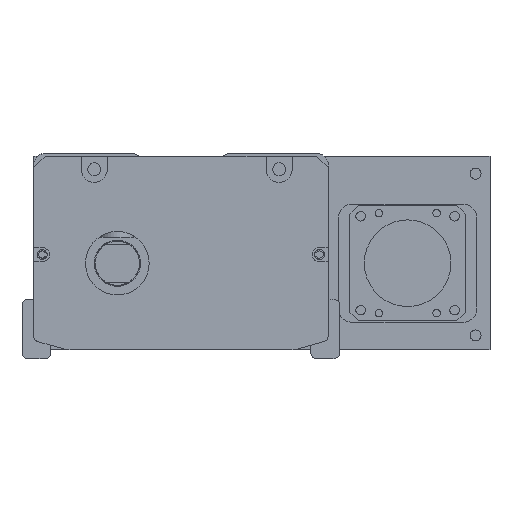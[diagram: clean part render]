
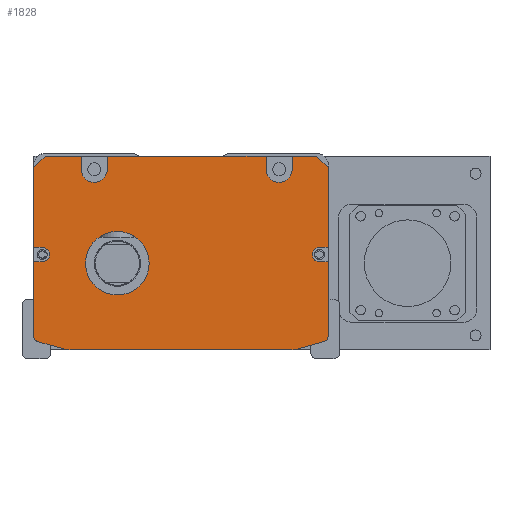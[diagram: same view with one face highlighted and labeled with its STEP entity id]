
A CAD part, front view. The second image highlights one B-rep face of the part: STEP entity #1828.
In plain terms, the highlighted planar face has unit normal (0, -1, 0).
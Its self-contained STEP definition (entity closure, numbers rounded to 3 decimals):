
#1828=ADVANCED_FACE('',(#4376,#4377),#2367,.F.);
#2367=PLANE('',#13833);
#2900=LINE('',#26666,#3695);
#2904=LINE('',#26675,#3699);
#2912=LINE('',#26702,#3707);
#2916=LINE('',#26711,#3711);
#2923=LINE('',#26727,#3718);
#2925=LINE('',#26732,#3720);
#2940=LINE('',#26775,#3735);
#2942=LINE('',#26783,#3737);
#2945=LINE('',#26787,#3740);
#2966=LINE('',#26855,#3761);
#2970=LINE('',#26864,#3765);
#2974=LINE('',#26873,#3769);
#2978=LINE('',#26882,#3773);
#2982=LINE('',#26898,#3777);
#2986=LINE('',#26904,#3781);
#2987=LINE('',#26905,#3782);
#2989=LINE('',#26921,#3784);
#2990=LINE('',#26922,#3785);
#2991=LINE('',#26923,#3786);
#2992=LINE('',#26924,#3787);
#3695=VECTOR('',#16325,1.);
#3699=VECTOR('',#16331,1.);
#3707=VECTOR('',#16353,1.);
#3711=VECTOR('',#16359,1.);
#3718=VECTOR('',#16368,1.);
#3720=VECTOR('',#16372,1.);
#3735=VECTOR('',#16411,1.);
#3737=VECTOR('',#16421,1.);
#3740=VECTOR('',#16426,1.);
#3761=VECTOR('',#16501,1.);
#3765=VECTOR('',#16507,1.);
#3769=VECTOR('',#16513,1.);
#3773=VECTOR('',#16519,1.);
#3777=VECTOR('',#16537,1.);
#3781=VECTOR('',#16541,1.);
#3782=VECTOR('',#16542,1.);
#3784=VECTOR('',#16566,1.);
#3785=VECTOR('',#16567,1.);
#3786=VECTOR('',#16568,1.);
#3787=VECTOR('',#16569,1.);
#4376=FACE_BOUND('',#5246,.T.);
#4377=FACE_BOUND('',#5247,.T.);
#5246=EDGE_LOOP('',(#7701,#7702,#7703,#7704,#7705,#7706,#7707,#7708,#7709,
#7710,#7711,#7712,#7713,#7714,#7715,#7716,#7717,#7718,#7719,#7720,#7721,
#7722,#7723,#7724,#7725,#7726,#7727,#7728));
#5247=EDGE_LOOP('',(#7729));
#7701=ORIENTED_EDGE('',*,*,#11662,.T.);
#7702=ORIENTED_EDGE('',*,*,#11539,.T.);
#7703=ORIENTED_EDGE('',*,*,#11649,.T.);
#7704=ORIENTED_EDGE('',*,*,#11566,.F.);
#7705=ORIENTED_EDGE('',*,*,#11603,.T.);
#7706=ORIENTED_EDGE('',*,*,#11568,.F.);
#7707=ORIENTED_EDGE('',*,*,#11654,.T.);
#7708=ORIENTED_EDGE('',*,*,#11555,.F.);
#7709=ORIENTED_EDGE('',*,*,#11600,.T.);
#7710=ORIENTED_EDGE('',*,*,#11559,.F.);
#7711=ORIENTED_EDGE('',*,*,#11653,.T.);
#7712=ORIENTED_EDGE('',*,*,#11543,.T.);
#7713=ORIENTED_EDGE('',*,*,#11663,.T.);
#7714=ORIENTED_EDGE('',*,*,#11633,.T.);
#7715=ORIENTED_EDGE('',*,*,#11661,.T.);
#7716=ORIENTED_EDGE('',*,*,#11629,.T.);
#7717=ORIENTED_EDGE('',*,*,#11664,.T.);
#7718=ORIENTED_EDGE('',*,*,#11586,.T.);
#7719=ORIENTED_EDGE('',*,*,#11589,.T.);
#7720=ORIENTED_EDGE('',*,*,#11592,.T.);
#7721=ORIENTED_EDGE('',*,*,#11593,.T.);
#7722=ORIENTED_EDGE('',*,*,#11549,.T.);
#7723=ORIENTED_EDGE('',*,*,#11596,.T.);
#7724=ORIENTED_EDGE('',*,*,#11551,.T.);
#7725=ORIENTED_EDGE('',*,*,#11665,.T.);
#7726=ORIENTED_EDGE('',*,*,#11641,.T.);
#7727=ORIENTED_EDGE('',*,*,#11660,.T.);
#7728=ORIENTED_EDGE('',*,*,#11637,.T.);
#7729=ORIENTED_EDGE('',*,*,#11605,.T.);
#10007=VERTEX_POINT('',#26667);
#10008=VERTEX_POINT('',#26668);
#10011=VERTEX_POINT('',#26676);
#10012=VERTEX_POINT('',#26677);
#10017=VERTEX_POINT('',#26688);
#10018=VERTEX_POINT('',#26690);
#10019=VERTEX_POINT('',#26694);
#10020=VERTEX_POINT('',#26695);
#10023=VERTEX_POINT('',#26703);
#10024=VERTEX_POINT('',#26704);
#10027=VERTEX_POINT('',#26712);
#10028=VERTEX_POINT('',#26713);
#10032=VERTEX_POINT('',#26722);
#10034=VERTEX_POINT('',#26726);
#10035=VERTEX_POINT('',#26730);
#10037=VERTEX_POINT('',#26733);
#10047=VERTEX_POINT('',#26763);
#10050=VERTEX_POINT('',#26768);
#10052=VERTEX_POINT('',#26774);
#10054=VERTEX_POINT('',#26780);
#10057=VERTEX_POINT('',#26806);
#10073=VERTEX_POINT('',#26853);
#10075=VERTEX_POINT('',#26856);
#10078=VERTEX_POINT('',#26863);
#10079=VERTEX_POINT('',#26865);
#10081=VERTEX_POINT('',#26871);
#10083=VERTEX_POINT('',#26874);
#10086=VERTEX_POINT('',#26881);
#10087=VERTEX_POINT('',#26883);
#11539=EDGE_CURVE('',#10007,#10008,#2900,.T.);
#11543=EDGE_CURVE('',#10011,#10012,#2904,.T.);
#11549=EDGE_CURVE('',#10018,#10017,#12708,.T.);
#11551=EDGE_CURVE('',#10019,#10020,#12709,.T.);
#11555=EDGE_CURVE('',#10023,#10024,#2912,.T.);
#11559=EDGE_CURVE('',#10027,#10028,#2916,.T.);
#11566=EDGE_CURVE('',#10034,#10032,#2923,.T.);
#11568=EDGE_CURVE('',#10035,#10037,#2925,.T.);
#11586=EDGE_CURVE('',#10047,#10050,#12716,.T.);
#11589=EDGE_CURVE('',#10050,#10052,#2940,.T.);
#11592=EDGE_CURVE('',#10052,#10054,#12718,.T.);
#11593=EDGE_CURVE('',#10054,#10018,#2942,.T.);
#11596=EDGE_CURVE('',#10017,#10019,#2945,.T.);
#11600=EDGE_CURVE('',#10023,#10028,#12721,.T.);
#11603=EDGE_CURVE('',#10034,#10037,#12724,.T.);
#11605=EDGE_CURVE('',#10057,#10057,#12725,.T.);
#11629=EDGE_CURVE('',#10075,#10073,#2966,.T.);
#11633=EDGE_CURVE('',#10079,#10078,#2970,.T.);
#11637=EDGE_CURVE('',#10083,#10081,#2974,.T.);
#11641=EDGE_CURVE('',#10087,#10086,#2978,.T.);
#11649=EDGE_CURVE('',#10008,#10032,#2982,.T.);
#11653=EDGE_CURVE('',#10027,#10011,#2986,.T.);
#11654=EDGE_CURVE('',#10035,#10024,#2987,.T.);
#11660=EDGE_CURVE('',#10086,#10083,#12739,.T.);
#11661=EDGE_CURVE('',#10078,#10075,#12740,.T.);
#11662=EDGE_CURVE('',#10081,#10007,#2989,.T.);
#11663=EDGE_CURVE('',#10012,#10079,#2990,.T.);
#11664=EDGE_CURVE('',#10073,#10047,#2991,.T.);
#11665=EDGE_CURVE('',#10020,#10087,#2992,.T.);
#12708=CIRCLE('',#13760,10.);
#12709=CIRCLE('',#13762,2.);
#12716=CIRCLE('',#13778,2.);
#12718=CIRCLE('',#13782,10.);
#12721=CIRCLE('',#13790,4.5);
#12724=CIRCLE('',#13795,4.5);
#12725=CIRCLE('',#13798,11.);
#12739=CIRCLE('',#13829,2.5);
#12740=CIRCLE('',#13831,2.5);
#13760=AXIS2_PLACEMENT_3D('',#26689,#16340,#16341);
#13762=AXIS2_PLACEMENT_3D('',#26693,#16345,#16346);
#13778=AXIS2_PLACEMENT_3D('',#26769,#16405,#16406);
#13782=AXIS2_PLACEMENT_3D('',#26781,#16417,#16418);
#13790=AXIS2_PLACEMENT_3D('',#26795,#16438,#16439);
#13795=AXIS2_PLACEMENT_3D('',#26801,#16448,#16449);
#13798=AXIS2_PLACEMENT_3D('',#26805,#16455,#16456);
#13829=AXIS2_PLACEMENT_3D('',#26917,#16558,#16559);
#13831=AXIS2_PLACEMENT_3D('',#26919,#16562,#16563);
#13833=AXIS2_PLACEMENT_3D('',#26925,#16570,#16571);
#16325=DIRECTION('',(-0.707,0.,0.707));
#16331=DIRECTION('',(-0.707,0.,-0.707));
#16340=DIRECTION('',(0.,-1.,0.));
#16341=DIRECTION('',(0.,0.,-1.));
#16345=DIRECTION('',(0.,-1.,0.));
#16346=DIRECTION('',(0.,0.,-1.));
#16353=DIRECTION('',(0.,0.,1.));
#16359=DIRECTION('',(0.,0.,-1.));
#16368=DIRECTION('',(0.,0.,1.));
#16372=DIRECTION('',(0.,0.,-1.));
#16405=DIRECTION('',(0.,-1.,0.));
#16406=DIRECTION('',(0.,0.,1.));
#16411=DIRECTION('',(0.963,0.,-0.269));
#16417=DIRECTION('',(0.,-1.,0.));
#16418=DIRECTION('',(0.,0.,1.));
#16421=DIRECTION('',(1.,0.,0.));
#16426=DIRECTION('',(0.963,0.,0.269));
#16438=DIRECTION('',(0.,1.,0.));
#16439=DIRECTION('',(0.,0.,1.));
#16448=DIRECTION('',(0.,1.,0.));
#16449=DIRECTION('',(0.,0.,1.));
#16455=DIRECTION('',(0.,1.,0.));
#16456=DIRECTION('',(0.,0.,1.));
#16501=DIRECTION('',(-1.,0.,0.));
#16507=DIRECTION('',(1.,0.,0.));
#16513=DIRECTION('',(1.,0.,0.));
#16519=DIRECTION('',(-1.,0.,0.));
#16537=DIRECTION('',(-1.,0.,0.));
#16541=DIRECTION('',(-1.,0.,0.));
#16542=DIRECTION('',(-1.,0.,0.));
#16558=DIRECTION('',(0.,1.,0.));
#16559=DIRECTION('',(0.,0.,1.));
#16562=DIRECTION('',(0.,1.,0.));
#16563=DIRECTION('',(0.,0.,1.));
#16566=DIRECTION('',(0.,0.,1.));
#16567=DIRECTION('',(0.,0.,-1.));
#16568=DIRECTION('',(0.,0.,-1.));
#16569=DIRECTION('',(0.,0.,1.));
#16570=DIRECTION('',(0.,1.,0.));
#16571=DIRECTION('',(-1.,0.,0.));
#26666=CARTESIAN_POINT('',(43.808,-167.5,-1.));
#26667=CARTESIAN_POINT('',(47.808,-167.5,-5.));
#26668=CARTESIAN_POINT('',(43.808,-167.5,-1.));
#26675=CARTESIAN_POINT('',(-54.192,-167.5,-5.));
#26676=CARTESIAN_POINT('',(-50.192,-167.5,-1.));
#26677=CARTESIAN_POINT('',(-54.192,-167.5,-5.));
#26688=CARTESIAN_POINT('',(37.424,-167.5,-67.631));
#26689=CARTESIAN_POINT('',(34.733,-167.5,-58.));
#26690=CARTESIAN_POINT('',(34.733,-167.5,-68.));
#26693=CARTESIAN_POINT('',(45.808,-167.5,-63.212));
#26694=CARTESIAN_POINT('',(46.346,-167.5,-65.138));
#26695=CARTESIAN_POINT('',(47.808,-167.5,-63.212));
#26702=CARTESIAN_POINT('',(-28.692,-167.5,-3.5));
#26703=CARTESIAN_POINT('',(-28.692,-167.5,-5.5));
#26704=CARTESIAN_POINT('',(-28.692,-167.5,-1.));
#26711=CARTESIAN_POINT('',(-37.692,-167.5,-1.));
#26712=CARTESIAN_POINT('',(-37.692,-167.5,-1.));
#26713=CARTESIAN_POINT('',(-37.692,-167.5,-5.5));
#26722=CARTESIAN_POINT('',(35.308,-167.5,-1.));
#26726=CARTESIAN_POINT('',(35.308,-167.5,-5.5));
#26727=CARTESIAN_POINT('',(35.308,-167.5,-1.));
#26730=CARTESIAN_POINT('',(26.308,-167.5,-1.));
#26732=CARTESIAN_POINT('',(26.308,-167.5,-1.));
#26733=CARTESIAN_POINT('',(26.308,-167.5,-5.5));
#26763=CARTESIAN_POINT('',(-54.192,-167.5,-63.212));
#26768=CARTESIAN_POINT('',(-52.731,-167.5,-65.138));
#26769=CARTESIAN_POINT('',(-52.192,-167.5,-63.212));
#26774=CARTESIAN_POINT('',(-43.809,-167.5,-67.631));
#26775=CARTESIAN_POINT('',(-55.807,-167.5,-64.279));
#26780=CARTESIAN_POINT('',(-41.118,-167.5,-68.));
#26781=CARTESIAN_POINT('',(-41.118,-167.5,-58.));
#26783=CARTESIAN_POINT('',(-54.692,-167.5,-68.));
#26787=CARTESIAN_POINT('',(49.422,-167.5,-64.279));
#26795=CARTESIAN_POINT('',(-33.192,-167.5,-5.5));
#26801=CARTESIAN_POINT('',(30.808,-167.5,-5.5));
#26805=CARTESIAN_POINT('',(-25.192,-167.5,-38.));
#26806=CARTESIAN_POINT('',(-25.192,-167.5,-27.));
#26853=CARTESIAN_POINT('',(-54.192,-167.5,-37.5));
#26855=CARTESIAN_POINT('',(-3.192,-167.5,-37.5));
#26856=CARTESIAN_POINT('',(-51.192,-167.5,-37.5));
#26863=CARTESIAN_POINT('',(-51.192,-167.5,-32.5));
#26864=CARTESIAN_POINT('',(-3.192,-167.5,-32.5));
#26865=CARTESIAN_POINT('',(-54.192,-167.5,-32.5));
#26871=CARTESIAN_POINT('',(47.808,-167.5,-32.5));
#26873=CARTESIAN_POINT('',(-3.192,-167.5,-32.5));
#26874=CARTESIAN_POINT('',(44.808,-167.5,-32.5));
#26881=CARTESIAN_POINT('',(44.808,-167.5,-37.5));
#26882=CARTESIAN_POINT('',(-3.192,-167.5,-37.5));
#26883=CARTESIAN_POINT('',(47.808,-167.5,-37.5));
#26898=CARTESIAN_POINT('',(-3.192,-167.5,-1.));
#26904=CARTESIAN_POINT('',(-54.192,-167.5,-1.));
#26905=CARTESIAN_POINT('',(-54.192,-167.5,-1.));
#26917=CARTESIAN_POINT('',(44.808,-167.5,-35.));
#26919=CARTESIAN_POINT('',(-51.192,-167.5,-35.));
#26921=CARTESIAN_POINT('',(47.808,-167.5,-1.));
#26922=CARTESIAN_POINT('',(-54.192,-167.5,-62.));
#26923=CARTESIAN_POINT('',(-54.192,-167.5,-62.));
#26924=CARTESIAN_POINT('',(47.808,-167.5,-1.));
#26925=CARTESIAN_POINT('',(-3.192,-167.5,-1.));
